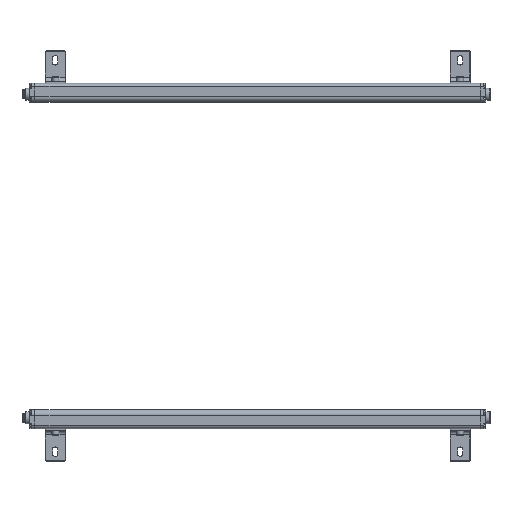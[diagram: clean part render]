
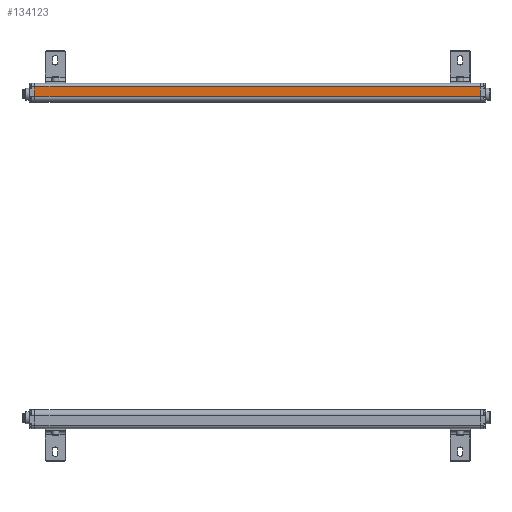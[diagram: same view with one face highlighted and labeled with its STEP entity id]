
A CAD part, left-side view. The second image highlights one B-rep face of the part: STEP entity #134123.
In plain terms, the highlighted planar face has unit normal (-1, 0, 0).
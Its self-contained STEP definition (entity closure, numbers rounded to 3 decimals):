
#477 = CARTESIAN_POINT ( 'NONE',  ( -17.35, 0., 8.225 ) ) ;
#1000 = CARTESIAN_POINT ( 'NONE',  ( -17.35, 645., 0. ) ) ;
#1690 = EDGE_CURVE ( 'NONE', #106716, #113926, #7834, .T. ) ;
#7834 = LINE ( 'NONE', #477, #75033 ) ;
#9021 = DIRECTION ( 'NONE',  ( 0., 0., 1. ) ) ;
#14106 = ORIENTED_EDGE ( 'NONE', *, *, #101542, .F. ) ;
#16401 = CARTESIAN_POINT ( 'NONE',  ( -17.35, 645., -6.175 ) ) ;
#23565 = ORIENTED_EDGE ( 'NONE', *, *, #112515, .T. ) ;
#28248 = DIRECTION ( 'NONE',  ( 0., 0., 1. ) ) ;
#34092 = LINE ( 'NONE', #1000, #75414 ) ;
#36238 = CARTESIAN_POINT ( 'NONE',  ( -17.35, 0., -6.175 ) ) ;
#41917 = LINE ( 'NONE', #75047, #124617 ) ;
#45261 = DIRECTION ( 'NONE',  ( 0., -1., 0. ) ) ;
#47305 = DIRECTION ( 'NONE',  ( 0., -1., 0. ) ) ;
#49147 = VECTOR ( 'NONE', #47305, 1000. ) ;
#59697 = CARTESIAN_POINT ( 'NONE',  ( -17.35, 645., 8.225 ) ) ;
#75033 = VECTOR ( 'NONE', #45261, 1000. ) ;
#75047 = CARTESIAN_POINT ( 'NONE',  ( -17.35, 0., 0. ) ) ;
#75414 = VECTOR ( 'NONE', #134481, 1000. ) ;
#75478 = FACE_OUTER_BOUND ( 'NONE', #135422, .T. ) ;
#76787 = VERTEX_POINT ( 'NONE', #16401 ) ;
#91654 = ORIENTED_EDGE ( 'NONE', *, *, #1690, .F. ) ;
#92964 = AXIS2_PLACEMENT_3D ( 'NONE', #128965, #105843, #28248 ) ;
#94014 = CARTESIAN_POINT ( 'NONE',  ( -17.35, 0., 8.225 ) ) ;
#101542 = EDGE_CURVE ( 'NONE', #76787, #106716, #34092, .T. ) ;
#104062 = EDGE_CURVE ( 'NONE', #119598, #113926, #41917, .T. ) ;
#105843 = DIRECTION ( 'NONE',  ( -1., 0., 0. ) ) ;
#106716 = VERTEX_POINT ( 'NONE', #59697 ) ;
#107778 = LINE ( 'NONE', #36238, #49147 ) ;
#112515 = EDGE_CURVE ( 'NONE', #76787, #119598, #107778, .T. ) ;
#113926 = VERTEX_POINT ( 'NONE', #94014 ) ;
#119598 = VERTEX_POINT ( 'NONE', #122339 ) ;
#122339 = CARTESIAN_POINT ( 'NONE',  ( -17.35, 0., -6.175 ) ) ;
#123891 = ORIENTED_EDGE ( 'NONE', *, *, #104062, .T. ) ;
#124617 = VECTOR ( 'NONE', #9021, 1000. ) ;
#128965 = CARTESIAN_POINT ( 'NONE',  ( -17.35, 0., -6.175 ) ) ;
#134123 = ADVANCED_FACE ( 'NONE', ( #75478 ), #140068, .T. ) ;
#134481 = DIRECTION ( 'NONE',  ( 0., 0., 1. ) ) ;
#135422 = EDGE_LOOP ( 'NONE', ( #23565, #123891, #91654, #14106 ) ) ;
#140068 = PLANE ( 'NONE',  #92964 ) ;
